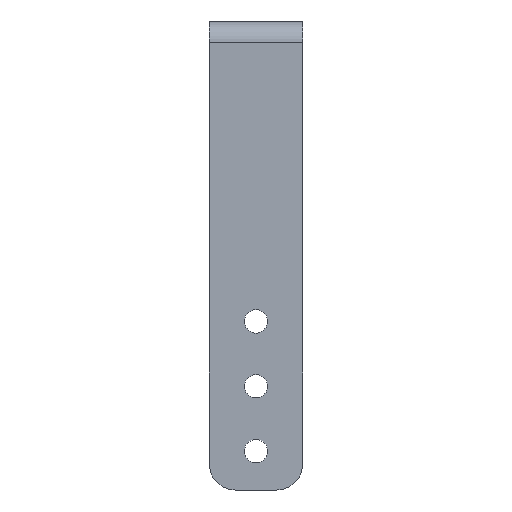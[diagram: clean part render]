
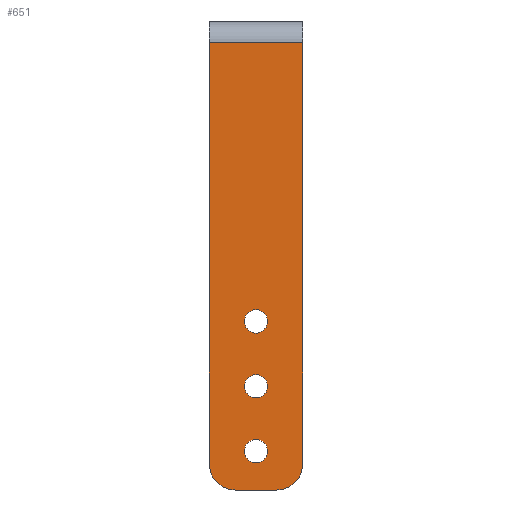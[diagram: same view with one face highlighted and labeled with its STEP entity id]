
A CAD part, left-side view. The second image highlights one B-rep face of the part: STEP entity #651.
In plain terms, the highlighted planar face has unit normal (-1, 0, 0).
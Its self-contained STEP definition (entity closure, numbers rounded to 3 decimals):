
#23=FACE_BOUND('',#124,.T.);
#24=FACE_BOUND('',#125,.T.);
#25=FACE_BOUND('',#126,.T.);
#45=PLANE('',#743);
#79=FACE_OUTER_BOUND('',#123,.T.);
#123=EDGE_LOOP('',(#534,#535,#536,#537,#538,#539));
#124=EDGE_LOOP('',(#540));
#125=EDGE_LOOP('',(#541));
#126=EDGE_LOOP('',(#542));
#151=LINE('',#1007,#200);
#157=LINE('',#1024,#206);
#177=LINE('',#1080,#226);
#181=LINE('',#1095,#230);
#200=VECTOR('',#826,10.);
#206=VECTOR('',#842,10.);
#226=VECTOR('',#902,10.);
#230=VECTOR('',#920,10.);
#244=CIRCLE('',#693,4.5);
#248=CIRCLE('',#699,4.5);
#252=CIRCLE('',#705,4.5);
#254=CIRCLE('',#708,10.);
#257=CIRCLE('',#714,10.);
#278=VERTEX_POINT('',#964);
#282=VERTEX_POINT('',#976);
#286=VERTEX_POINT('',#988);
#288=VERTEX_POINT('',#994);
#289=VERTEX_POINT('',#995);
#293=VERTEX_POINT('',#1005);
#297=VERTEX_POINT('',#1017);
#298=VERTEX_POINT('',#1018);
#299=VERTEX_POINT('',#1023);
#332=EDGE_CURVE('',#278,#278,#244,.T.);
#338=EDGE_CURVE('',#282,#282,#248,.T.);
#344=EDGE_CURVE('',#286,#286,#252,.T.);
#347=EDGE_CURVE('',#288,#289,#254,.T.);
#353=EDGE_CURVE('',#293,#288,#151,.T.);
#358=EDGE_CURVE('',#297,#298,#257,.T.);
#361=EDGE_CURVE('',#298,#299,#157,.T.);
#389=EDGE_CURVE('',#293,#299,#177,.T.);
#397=EDGE_CURVE('',#289,#297,#181,.T.);
#534=ORIENTED_EDGE('',*,*,#347,.F.);
#535=ORIENTED_EDGE('',*,*,#353,.F.);
#536=ORIENTED_EDGE('',*,*,#389,.T.);
#537=ORIENTED_EDGE('',*,*,#361,.F.);
#538=ORIENTED_EDGE('',*,*,#358,.F.);
#539=ORIENTED_EDGE('',*,*,#397,.F.);
#540=ORIENTED_EDGE('',*,*,#332,.T.);
#541=ORIENTED_EDGE('',*,*,#338,.T.);
#542=ORIENTED_EDGE('',*,*,#344,.T.);
#651=ADVANCED_FACE('',(#79,#23,#24,#25),#45,.T.);
#693=AXIS2_PLACEMENT_3D('',#965,#781,#782);
#699=AXIS2_PLACEMENT_3D('',#977,#795,#796);
#705=AXIS2_PLACEMENT_3D('',#989,#809,#810);
#708=AXIS2_PLACEMENT_3D('',#996,#816,#817);
#714=AXIS2_PLACEMENT_3D('',#1019,#836,#837);
#743=AXIS2_PLACEMENT_3D('',#1096,#921,#922);
#781=DIRECTION('center_axis',(1.,0.,0.));
#782=DIRECTION('ref_axis',(0.,0.,
1.));
#795=DIRECTION('center_axis',(1.,0.,0.));
#796=DIRECTION('ref_axis',(0.,0.,
1.));
#809=DIRECTION('center_axis',(1.,0.,0.));
#810=DIRECTION('ref_axis',(0.,0.,
1.));
#816=DIRECTION('center_axis',(1.,0.,0.));
#817=DIRECTION('ref_axis',(0.,-0.707,-0.707));
#826=DIRECTION('',(0.,0.,-1.));
#836=DIRECTION('center_axis',(1.,0.,0.));
#837=DIRECTION('ref_axis',(0.,0.707,-0.707));
#842=DIRECTION('',(0.,0.,1.));
#902=DIRECTION('',(0.,1.,0.));
#920=DIRECTION('',(0.,1.,0.));
#921=DIRECTION('center_axis',(-1.,0.,0.));
#922=DIRECTION('ref_axis',(0.,0.,
1.));
#964=CARTESIAN_POINT('',(-132.,0.,-166.));
#965=CARTESIAN_POINT('Origin',(-132.,0.,-161.5));
#976=CARTESIAN_POINT('',(-132.,0.,-116.));
#977=CARTESIAN_POINT('Origin',(-132.,0.,-111.5));
#988=CARTESIAN_POINT('',(-132.,0.,-141.));
#989=CARTESIAN_POINT('Origin',(-132.,0.,-136.5));
#994=CARTESIAN_POINT('',(-132.,-18.,-166.5));
#995=CARTESIAN_POINT('',(-132.,-8.,-176.5));
#996=CARTESIAN_POINT('Origin',(-132.,-8.,-166.5));
#1005=CARTESIAN_POINT('',(-132.,-18.,-4.));
#1007=CARTESIAN_POINT('',(-132.,-18.,-4.));
#1017=CARTESIAN_POINT('',(-132.,8.,-176.5));
#1018=CARTESIAN_POINT('',(-132.,18.,-166.5));
#1019=CARTESIAN_POINT('Origin',(-132.,8.,-166.5));
#1023=CARTESIAN_POINT('',(-132.,18.,-4.));
#1024=CARTESIAN_POINT('',(-132.,18.,5.048));
#1080=CARTESIAN_POINT('',(-132.,0.,-4.));
#1095=CARTESIAN_POINT('',(-132.,-18.,-176.5));
#1096=CARTESIAN_POINT('Origin',(-132.,0.,-85.726));
